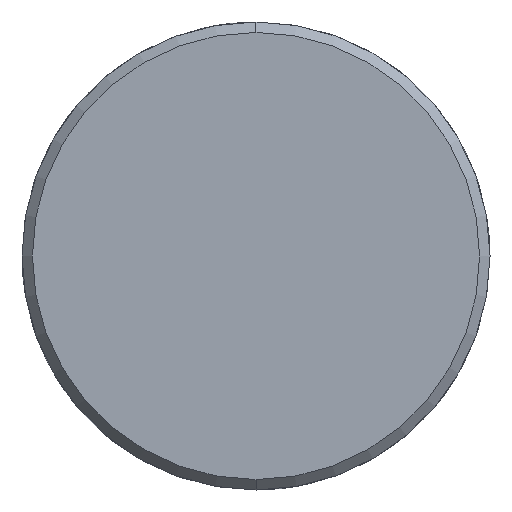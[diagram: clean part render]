
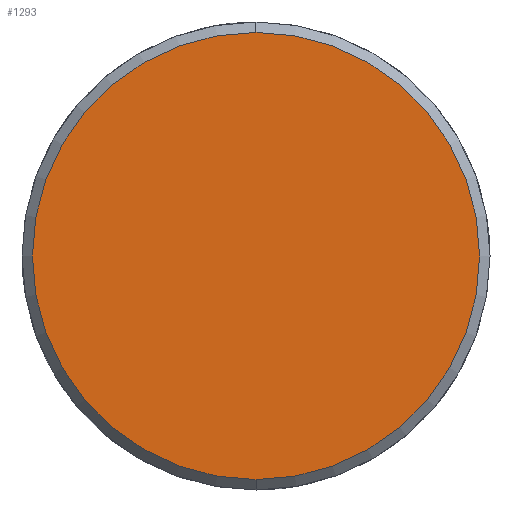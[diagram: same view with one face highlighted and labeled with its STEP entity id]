
A CAD part, left-side view. The second image highlights one B-rep face of the part: STEP entity #1293.
In plain terms, the highlighted planar face has unit normal (-1, 0, 0).
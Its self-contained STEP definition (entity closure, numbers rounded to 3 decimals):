
#1225=CARTESIAN_POINT('Vertex',(-7.,0.,-21.5)) ;
#1228=CARTESIAN_POINT('Axis2P3D Location',(-7.,0.,0.)) ;
#1232=CARTESIAN_POINT('Vertex',(-7.,21.5,0.)) ;
#1235=CARTESIAN_POINT('Axis2P3D Location',(-7.,0.,0.)) ;
#1239=CARTESIAN_POINT('Vertex',(-7.,0.,21.5)) ;
#1261=CARTESIAN_POINT('Axis2P3D Location',(-7.,0.,0.)) ;
#1265=CARTESIAN_POINT('Vertex',(-7.,-21.5,0.)) ;
#1268=CARTESIAN_POINT('Axis2P3D Location',(-7.,0.,0.)) ;
#1282=CARTESIAN_POINT('Axis2P3D Location',(-7.,0.,0.)) ;
#1229=DIRECTION('Axis2P3D Direction',(1.,0.,-0.)) ;
#1236=DIRECTION('Axis2P3D Direction',(1.,0.,-0.)) ;
#1262=DIRECTION('Axis2P3D Direction',(1.,0.,-0.)) ;
#1269=DIRECTION('Axis2P3D Direction',(1.,0.,-0.)) ;
#1283=DIRECTION('Axis2P3D Direction',(1.,0.,-0.)) ;
#1284=DIRECTION('Axis2P3D XDirection',(-0.,0.,-1.)) ;
#1230=AXIS2_PLACEMENT_3D('Circle Axis2P3D',#1228,#1229,$) ;
#1237=AXIS2_PLACEMENT_3D('Circle Axis2P3D',#1235,#1236,$) ;
#1263=AXIS2_PLACEMENT_3D('Circle Axis2P3D',#1261,#1262,$) ;
#1270=AXIS2_PLACEMENT_3D('Circle Axis2P3D',#1268,#1269,$) ;
#1285=AXIS2_PLACEMENT_3D('Plane Axis2P3D',#1282,#1283,#1284) ;
#1288=ORIENTED_EDGE('',*,*,#1234,.F.) ;
#1289=ORIENTED_EDGE('',*,*,#1272,.F.) ;
#1290=ORIENTED_EDGE('',*,*,#1267,.F.) ;
#1291=ORIENTED_EDGE('',*,*,#1241,.F.) ;
#1293=ADVANCED_FACE('351-32X106X180',(#1292),#1286,.F.) ;
#1231=CIRCLE('generated circle',#1230,21.5) ;
#1238=CIRCLE('generated circle',#1237,21.5) ;
#1264=CIRCLE('generated circle',#1263,21.5) ;
#1271=CIRCLE('generated circle',#1270,21.5) ;
#1234=EDGE_CURVE('',#1226,#1233,#1231,.T.) ;
#1241=EDGE_CURVE('',#1233,#1240,#1238,.T.) ;
#1267=EDGE_CURVE('',#1240,#1266,#1264,.T.) ;
#1272=EDGE_CURVE('',#1266,#1226,#1271,.T.) ;
#1287=EDGE_LOOP('',(#1288,#1289,#1290,#1291)) ;
#1292=FACE_OUTER_BOUND('',#1287,.T.) ;
#1286=PLANE('Plane',#1285) ;
#1226=VERTEX_POINT('',#1225) ;
#1233=VERTEX_POINT('',#1232) ;
#1240=VERTEX_POINT('',#1239) ;
#1266=VERTEX_POINT('',#1265) ;
